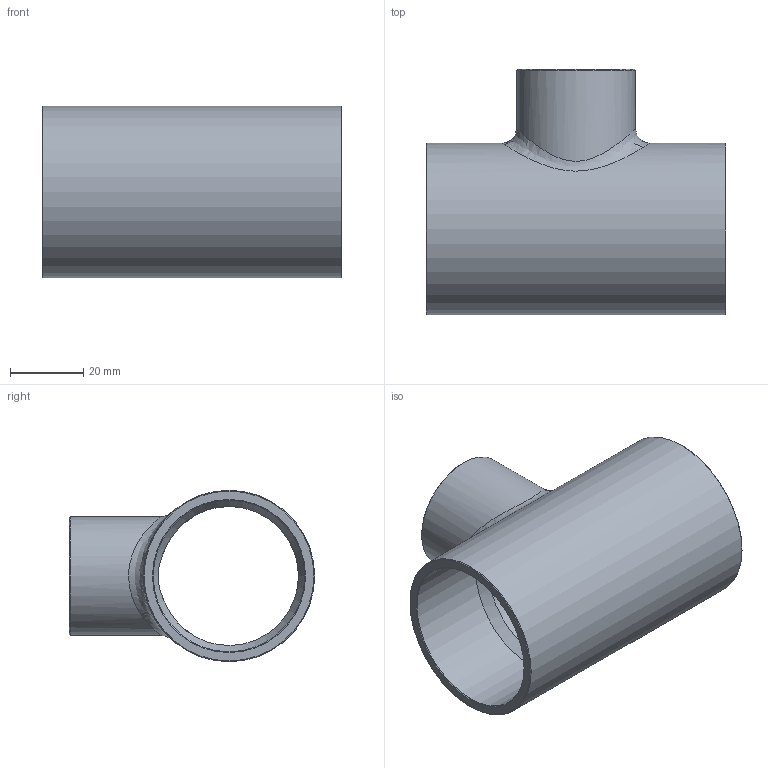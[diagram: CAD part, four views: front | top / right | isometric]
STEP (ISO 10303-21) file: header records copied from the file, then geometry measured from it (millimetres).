
FILE_DESCRIPTION((''),'2;1');
FILE_NAME('G:\SANHA-Ternat\Technik\Management\Bouwmaten + markeringen\z-maattekeningen 3D\29000s\29130158118158_3d.stp','2017-08-03T13:11:36',('vdvijverd'),(''),'Autodesk Inventor 2009','Autodesk Inventor 2009','');
FILE_SCHEMA(('AUTOMOTIVE_DESIGN { 1 0 10303 214 1 1 1 1 }'));
Length unit declared in the file: millimetre
Products named in the file (1): 29130158118158_3d
Bounding box: 82 x 67.15 x 46.9 mm (x, y, z)
Volume: 39807.6 mm3; surface area: 26557 mm2
Topology: 1 solids, 1 shells, 21 faces, 53 edges, 33 vertices
Faces by surface type: cone 8, cylinder 6, bspline 4, plane 3
Full cylindrical faces by diameter (mm): 27 x1, 28.725 x1, 32.5 x1, 41.455 x1, 46.9 x1
Entity records: 1889 total; most frequent: CARTESIAN_POINT 1473, DIRECTION 80, ORIENTED_EDGE 60, AXIS2_PLACEMENT_3D 40, EDGE_LOOP 40, EDGE_CURVE 30, VERTEX_POINT 26, CIRCLE 22
